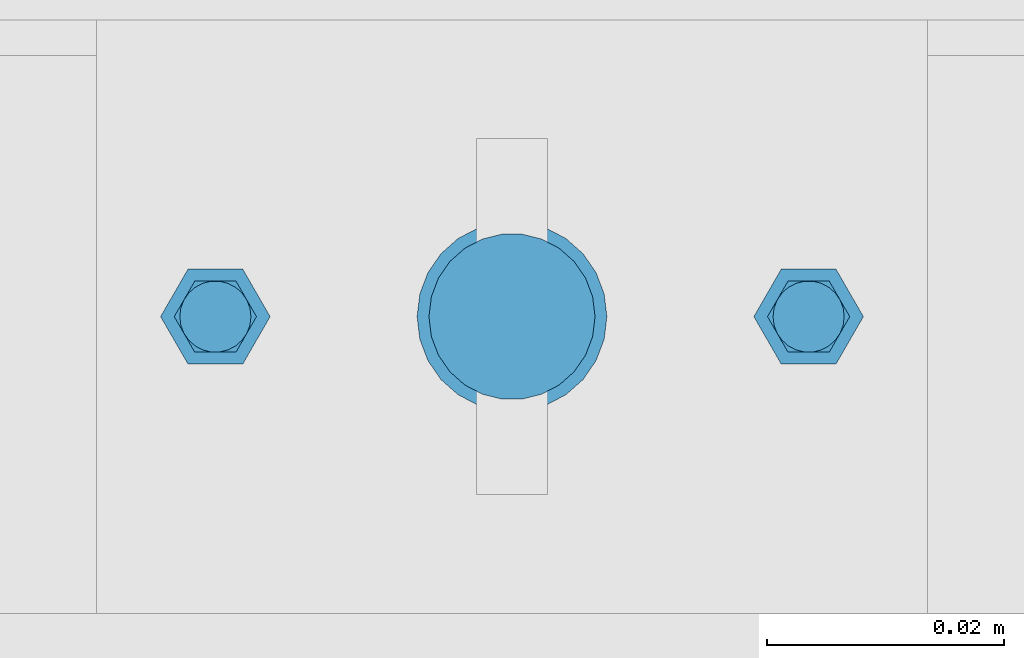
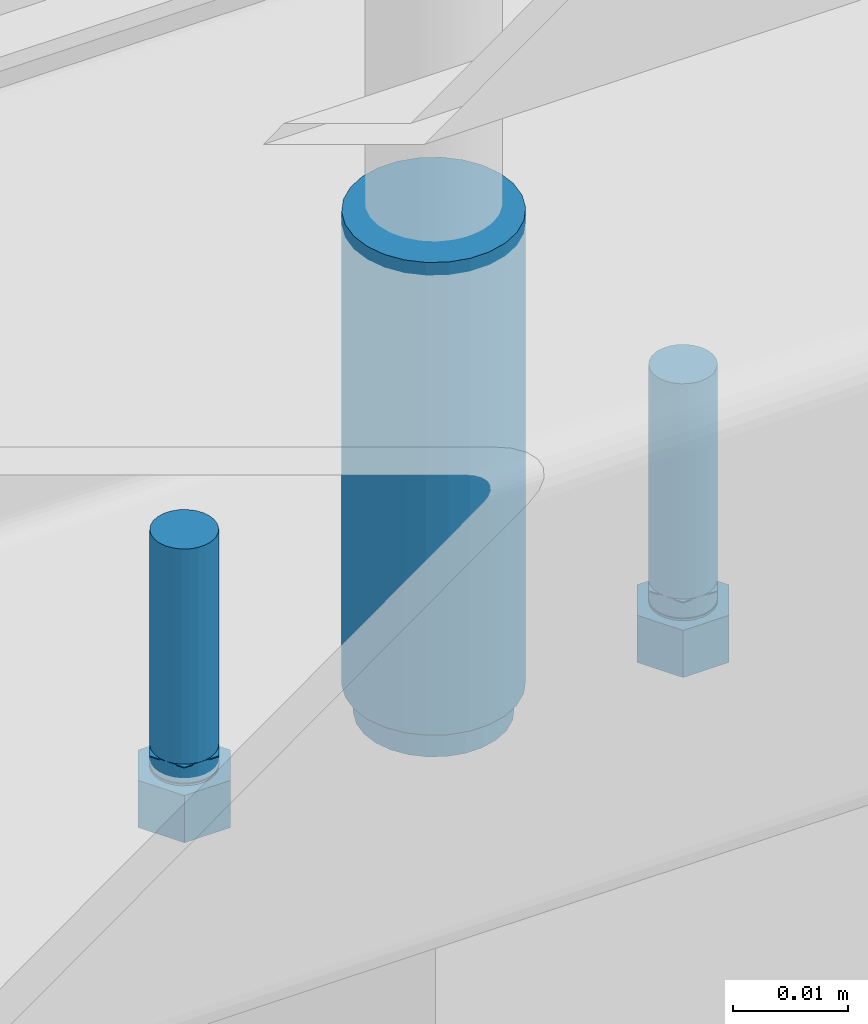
# One storey, part 49 of 91: 6 mechanical fasteners, 2 elements without a shape of their own.
"""IFC2X3 building model written with IfcOpenShell, lengths in millimetres."""

from ifc_helpers import new_model, si_unit, frame, origin_with_axes, origin_2d_with_axis, place, context, subcontext, project, spatial, polyline, circle, outline, extrude, source, transform, mapped, material, type_object, element, aggregate, save


model = new_model("IFC2X3")

# Units and contexts
model_context = context("Model", 3, precision=1e-05, world=origin_with_axes())
body_context = subcontext(model_context, "Body", "Model", "MODEL_VIEW")
ifc_project = project(units=[si_unit("LENGTHUNIT", "METRE", prefix="MILLI"), si_unit("AREAUNIT", "SQUARE_METRE"), si_unit("VOLUMEUNIT", "CUBIC_METRE"), si_unit("MASSUNIT", "GRAM", prefix="KILO"), si_unit("TIMEUNIT", "SECOND"), si_unit("PLANEANGLEUNIT", "RADIAN"), si_unit("SOLIDANGLEUNIT", "STERADIAN"), si_unit("THERMODYNAMICTEMPERATUREUNIT", "DEGREE_CELSIUS"), si_unit("LUMINOUSINTENSITYUNIT", "LUMEN")], contexts=[model_context])

# Site, building, storey
site_placement = place(None, origin_with_axes())
site = spatial("IfcSite", under=ifc_project, at=site_placement, Name="Undefined", CompositionType="ELEMENT")
building_placement = place(site_placement, origin_with_axes())
building = spatial("IfcBuilding", under=site, at=building_placement, Name="Undefined", CompositionType="ELEMENT")
storey_placement = place(building_placement, origin_with_axes())
storey = spatial("IfcBuildingStorey", under=building, at=storey_placement, Name="Undefined", CompositionType="ELEMENT", Elevation=0.0)

# Assembly, mechanical fasteners
assembly_1_placement = place(storey_placement, origin_with_axes())
assembly_1 = element("IfcElementAssembly", 1, at=assembly_1_placement, inside=storey, Name="ROD", AssemblyPlace="NOTDEFINED", PredefinedType="RIGID_FRAME")
ifc_material_1 = material(Name="8.8S")
discrete_accessory_type = type_object("IfcDiscreteAccessoryType", Name="Bolt assembly")
shared_shape_1 = source(origin_with_axes(), body_context, "Body", "SweptSolid", [
    extrude(circle(Radius=3.0, at=origin_2d_with_axis()), frame((0.0, -1.0, 0.0), z_axis=(0.0, 1.0, 0.0), x_axis=(1.0, 0.0, 0.0)), (0.0, 0.0, 1.0), 3.1),
])
mechanical_fastener_1_placement = place(assembly_1_placement, frame((-110870.84, 87590.15, 3324.0), z_axis=(0.0, 1.0, 0.0), x_axis=(-1.0, 0.0, 0.0)))
mechanical_fastener_1 = element("IfcMechanicalFastener", 2, at=mechanical_fastener_1_placement, type_object=discrete_accessory_type, material=ifc_material_1, Name="Bolt assembly", NominalDiameter=6.0, NominalLength=3.0, context=body_context, shape_type="MappedRepresentation", body=[
    mapped(shared_shape_1, transform((0.0, 0.0, 0.0))),
])
mechanical_fastener_2_placement = place(assembly_1_placement, frame((-110920.84, 87590.15, 3324.0), z_axis=(0.0, -1.0, 0.0), x_axis=(1.0, 0.0, 0.0)))
mechanical_fastener_2 = element("IfcMechanicalFastener", 3, at=mechanical_fastener_2_placement, type_object=discrete_accessory_type, material=ifc_material_1, Name="Bolt assembly", NominalDiameter=6.0, NominalLength=3.0, context=body_context, shape_type="MappedRepresentation", body=[
    mapped(shared_shape_1, transform((0.0, 0.0, 0.0))),
])
shared_shape_2 = source(origin_with_axes(), body_context, "Body", "SweptSolid", [
    extrude(circle(Radius=7.0, at=origin_2d_with_axis()), frame((0.0, -1.0, 0.0), z_axis=(0.0, 1.0, 0.0), x_axis=(1.0, 0.0, 0.0)), (0.0, 0.0, 1.0), 3.1),
])
mechanical_fastener_3_placement = place(assembly_1_placement, frame((-110895.84, 87590.15, 3324.0), z_axis=(0.0, -1.0, 0.0), x_axis=(1.0, 0.0, 0.0)))
mechanical_fastener_3 = element("IfcMechanicalFastener", 4, at=mechanical_fastener_3_placement, type_object=discrete_accessory_type, material=ifc_material_1, Name="Bolt assembly", NominalDiameter=12.0, NominalLength=3.0, context=body_context, shape_type="MappedRepresentation", body=[
    mapped(shared_shape_2, transform((0.0, 0.0, 0.0))),
])
aggregate(assembly_1, [mechanical_fastener_1, mechanical_fastener_2, mechanical_fastener_3])

assembly_2_placement = place(storey_placement, origin_with_axes())
assembly_2 = element("IfcElementAssembly", 5, at=assembly_2_placement, inside=storey, Name="SLIDING DOOR", AssemblyPlace="NOTDEFINED", PredefinedType="RIGID_FRAME")
ifc_material_2 = material(Name="TEK_11TPIM")
shared_shape_3 = source(origin_with_axes(), body_context, "Body", "SweptSolid", [
    extrude(circle(Radius=3.0, at=origin_2d_with_axis()), frame((0.0, 0.0, 0.0), z_axis=(0.0, 1.0, 0.0), x_axis=(1.0, 0.0, 0.0)), (0.0, 0.0, 1.0), 2.1),
    extrude(outline(polyline([(4.61880215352, 0.0), (2.30940107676, 4.00000000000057), (-2.30940107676, 4.00000000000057), (-4.61880215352, 0.0), (-2.30940107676, -4.00000000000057), (2.30940107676, -4.00000000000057), (4.61880215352, 0.0)])), frame((0.0, -5.0, 0.0), z_axis=(0.0, 1.0, 0.0), x_axis=(1.0, 0.0, 0.0)), (0.0, 0.0, 1.0), 5.0),
    extrude(circle(Radius=3.0, at=origin_2d_with_axis()), frame((0.0, 0.0, 0.0), z_axis=(0.0, 1.0, 0.0), x_axis=(1.0, 0.0, 0.0)), (0.0, 0.0, 1.0), 25.0),
    extrude(circle(Radius=3.0, at=origin_2d_with_axis()), frame((0.0, 2.00000000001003, 0.0), z_axis=(0.0, 1.0, 0.0), x_axis=(1.0, 0.0, 0.0)), (0.0, 0.0, 1.0), 0.1),
    extrude(outline(polyline([(3.46410161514, 0.0), (1.73205080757, 3.00000000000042), (-1.73205080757, 3.00000000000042), (-3.46410161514, 0.0), (-1.73205080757, -3.00000000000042), (1.73205080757, -3.00000000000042), (3.46410161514, 0.0)])), frame((0.0, 2.10000000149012, 0.0), z_axis=(0.0, 1.0, 0.0), x_axis=(1.0, 0.0, 0.0)), (0.0, 0.0, 1.0), 0.1),
])
mechanical_fastener_4_placement = place(assembly_2_placement, frame((-110870.84, 87590.15, 3326.0), z_axis=(0.0, 1.0, 0.0), x_axis=(-1.0, 0.0, 0.0)))
mechanical_fastener_4 = element("IfcMechanicalFastener", 6, at=mechanical_fastener_4_placement, type_object=discrete_accessory_type, material=ifc_material_2, Name="Bolt assembly", NominalDiameter=6.0, NominalLength=25.0, context=body_context, shape_type="MappedRepresentation", body=[
    mapped(shared_shape_3, transform((0.0, 0.0, 0.0))),
])
mechanical_fastener_5_placement = place(assembly_2_placement, frame((-110920.84, 87590.15, 3326.0), z_axis=(0.0, -1.0, 0.0), x_axis=(1.0, 0.0, 0.0)))
mechanical_fastener_5 = element("IfcMechanicalFastener", 7, at=mechanical_fastener_5_placement, type_object=discrete_accessory_type, material=ifc_material_2, Name="Bolt assembly", NominalDiameter=6.0, NominalLength=25.0, context=body_context, shape_type="MappedRepresentation", body=[
    mapped(shared_shape_3, transform((0.0, 0.0, 0.0))),
])
shared_shape_4 = source(origin_with_axes(), body_context, "Body", "SweptSolid", [
    extrude(circle(Radius=8.0, at=origin_2d_with_axis()), frame((0.0, 0.0, 0.0), z_axis=(0.0, 1.0, 0.0), x_axis=(1.0, 0.0, 0.0)), (0.0, 0.0, 1.0), 50.1),
])
mechanical_fastener_6_placement = place(assembly_2_placement, frame((-110895.84, 87590.15, 3326.0), z_axis=(0.0, 1.0, 0.0), x_axis=(-1.0, 0.0, 0.0)))
mechanical_fastener_6 = element("IfcMechanicalFastener", 8, at=mechanical_fastener_6_placement, type_object=discrete_accessory_type, material=ifc_material_1, Name="Bolt assembly", NominalDiameter=10.0, NominalLength=50.0, context=body_context, shape_type="MappedRepresentation", body=[
    mapped(shared_shape_4, transform((0.0, 0.0, 0.0))),
])
aggregate(assembly_2, [mechanical_fastener_4, mechanical_fastener_5, mechanical_fastener_6])

save(model, "model.ifc")
